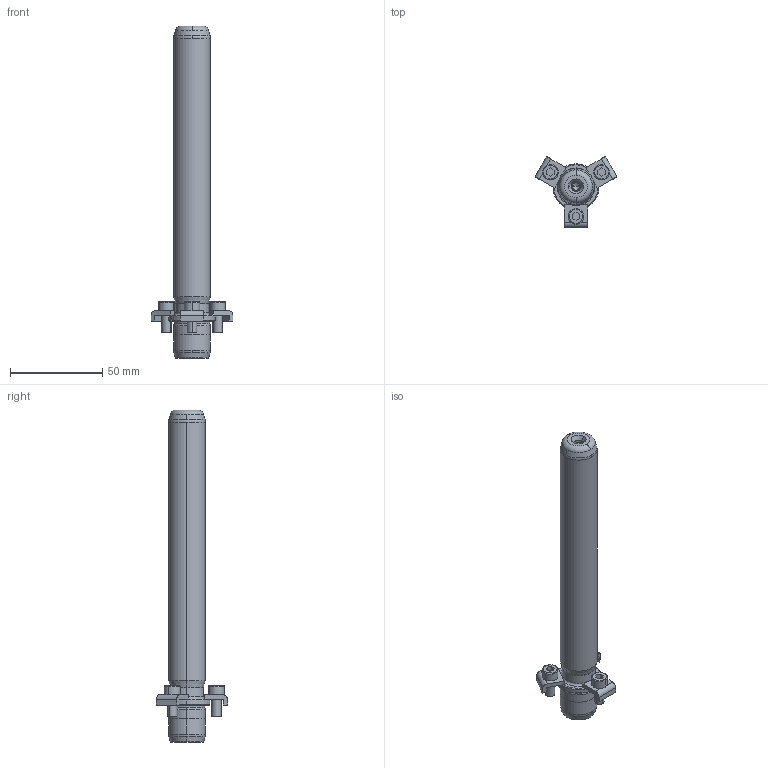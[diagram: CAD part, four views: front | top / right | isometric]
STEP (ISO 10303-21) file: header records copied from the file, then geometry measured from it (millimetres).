
FILE_DESCRIPTION((''),'2;1');
FILE_NAME('P21_020_160.stp','2008-12-19T11:24:26',(''),(''),'Mechanical Desktop 2009','Mechanical Desktop 2009',', , ');
FILE_SCHEMA(('CONFIG_CONTROL_DESIGN'));
Length unit declared in the file: millimetre
Products named in the file (2): Product; blmdl1
Assembly tree (1 placements, depth 2):
  Product
    blmdl1
Bounding box: 44.46 x 38.5 x 180 mm (x, y, z)
Volume: 58107.3 mm3; surface area: 15412.8 mm2
Topology: 7 solids, 7 shells, 169 faces, 417 edges, 269 vertices
Faces by surface type: plane 62, cylinder 47, cone 32, bspline 16, torus 12
Entity records: 5801 total; most frequent: CARTESIAN_POINT 1557, DIRECTION 940, ORIENTED_EDGE 826, EDGE_CURVE 413, AXIS2_PLACEMENT_3D 372, VERTEX_POINT 269, CIRCLE 217, VECTOR 196
